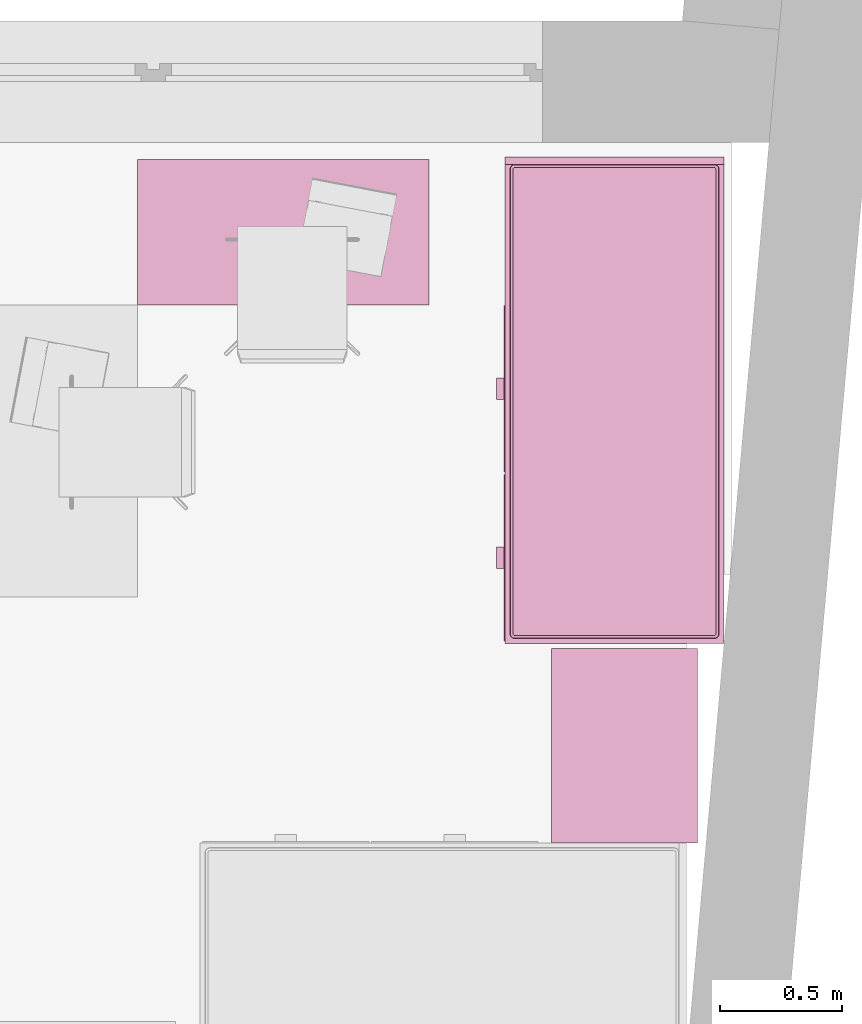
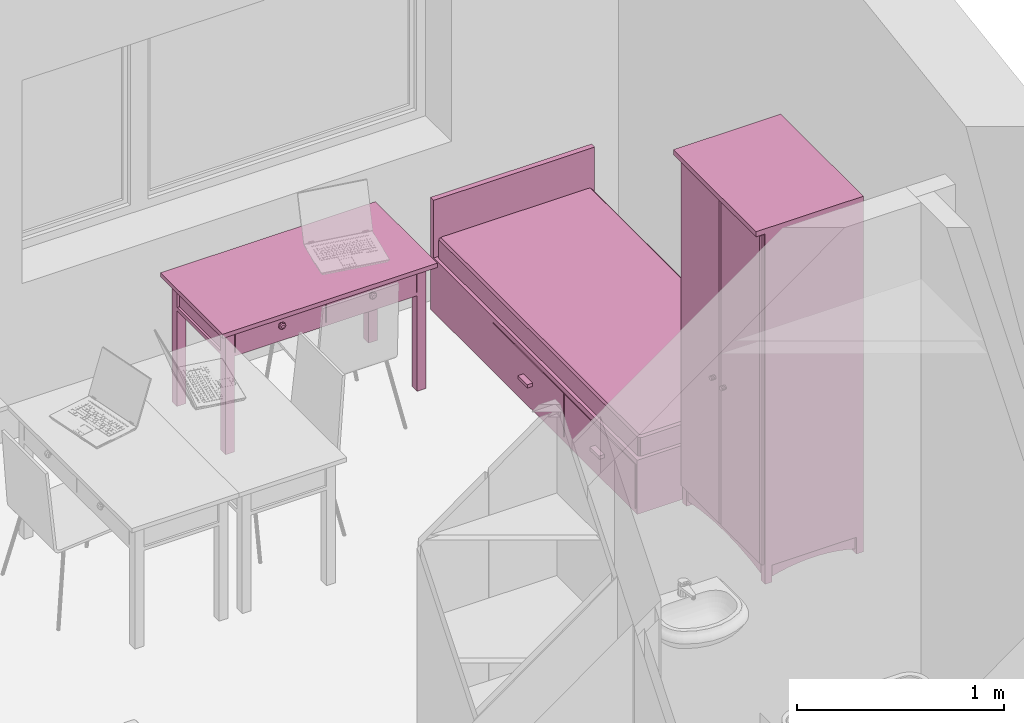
# One storey, part 148 of 165: 3 furnishings.
"""IFC2X3 building model written with IfcOpenShell, lengths in millimetres."""

import ifcopenshell
import ifcopenshell.guid

model = None  # the IFC model being written
_history = None  # IfcOwnerHistory: only IFC2X3 demands one
_inside = {}  # id of a spatial element -> (the spatial element, [elements in it])
_under = {}  # id of a project, library or spatial element -> (it, [spatial elements below it])
_declared = {}  # id of a project -> (the project, [libraries it declares])
_typed = {}  # id of a type object -> (the type object, [elements of that type])
_made_of = {}  # id of a material, layer set ... -> (it, [elements and type objects made of it])


def new_model(schema):
    """Start an empty IFC model of exactly this schema.

    Asked for "IFC4X3", IfcOpenShell would pick the latest addendum, in which some entities
    have other attributes; the version numbers below select the first issue.
    IFC2X3 requires an IfcOwnerHistory on every rooted entity: one is made here for all.
    """
    global model, _history
    if schema == "IFC4X3":
        model = ifcopenshell.file(schema_version=(4, 3, 0, 0))
    else:
        model = ifcopenshell.file(schema=schema)
    _inside.clear()
    _under.clear()
    _declared.clear()
    _typed.clear()
    _made_of.clear()
    _history = None
    if model.schema == "IFC2X3":
        org = make("IfcOrganization", Name="unknown")
        user = make(
            "IfcPersonAndOrganization",
            ThePerson=make("IfcPerson", FamilyName="unknown"),
            TheOrganization=org,
        )
        app = make(
            "IfcApplication",
            ApplicationDeveloper=org,
            Version="unknown",
            ApplicationFullName="unknown",
            ApplicationIdentifier="unknown",
        )
        _history = make(
            "IfcOwnerHistory",
            OwningUser=user,
            OwningApplication=app,
            ChangeAction="ADDED",
            CreationDate=0,
        )
    return model


def make(cls, **values):
    """One entity of the class cls with the attributes given. An attribute that is None is left unset."""
    return model.create_entity(
        cls, **{name: value for name, value in values.items() if value is not None}
    )


def entity(cls, *values):
    """Any entity or typed value of the class cls, its attributes in the order of the schema. None: left unset."""
    e = model.create_entity(cls)
    for i, value in enumerate(values):
        if value is not None:
            e[i] = value
    return e


def rooted(cls, **values):
    """An entity with a GlobalId (a new one), such as an element, a storey or a relation."""
    return make(cls, GlobalId=ifcopenshell.guid.new(), OwnerHistory=_history, **values)


def si_unit(unit_type, name, prefix=None):
    """IfcSIUnit, for example si_unit("LENGTHUNIT", "METRE", prefix="MILLI")."""
    return make("IfcSIUnit", UnitType=unit_type, Prefix=prefix, Name=name)


def converted_unit(unit_type, name, factor, base, dimensions=None, offset=None):
    """IfcConversionBasedUnit, such as the inch: factor (a typed value) times the base unit."""
    return make(
        "IfcConversionBasedUnit"
        if offset is None
        else "IfcConversionBasedUnitWithOffset",
        ConversionOffset=offset,
        Dimensions=None
        if dimensions is None
        else entity("IfcDimensionalExponents", *dimensions),
        UnitType=unit_type,
        Name=name,
        ConversionFactor=make(
            "IfcMeasureWithUnit", ValueComponent=factor, UnitComponent=base
        ),
    )


def money_unit(currency):
    """IfcMonetaryUnit."""
    return make("IfcMonetaryUnit", Currency=currency)


def assignment(units):
    """IfcUnitAssignment: the units of a project."""
    return None if units is None else make("IfcUnitAssignment", Units=units)


def point(xyz):
    """IfcCartesianPoint."""
    return None if xyz is None else make("IfcCartesianPoint", Coordinates=xyz)


def direction(xyz):
    """IfcDirection."""
    return None if xyz is None else make("IfcDirection", DirectionRatios=xyz)


def frame(location, z_axis=None, x_axis=None):
    """IfcAxis2Placement3D, a coordinate frame: its origin and axes. An axis left out is left unset."""
    return make(
        "IfcAxis2Placement3D",
        Location=point(location),
        Axis=direction(z_axis),
        RefDirection=direction(x_axis),
    )


def origin_with_axes():
    """The frame at (0, 0, 0) with the z axis (0, 0, 1) and the x axis (1, 0, 0) written out."""
    return frame((0.0, 0.0, 0.0), z_axis=(0.0, 0.0, 1.0), x_axis=(1.0, 0.0, 0.0))


def place(relative_to, where):
    """IfcLocalPlacement: puts the frame where relative to a parent placement (None: the world)."""
    return make(
        "IfcLocalPlacement", PlacementRelTo=relative_to, RelativePlacement=where
    )


def context(
    kind, dimensions, precision=None, world=None, true_north=None, identifier=None
):
    """IfcGeometricRepresentationContext, for example the 3D "Model" context."""
    return make(
        "IfcGeometricRepresentationContext",
        ContextIdentifier=identifier,
        ContextType=kind,
        CoordinateSpaceDimension=dimensions,
        Precision=precision,
        WorldCoordinateSystem=world,
        TrueNorth=true_north,
    )


def subcontext(parent, identifier, kind, view, scale=None):
    """IfcGeometricRepresentationSubContext, for example "Body" below "Model"."""
    return make(
        "IfcGeometricRepresentationSubContext",
        ContextIdentifier=identifier,
        ContextType=kind,
        ParentContext=parent,
        TargetScale=scale,
        TargetView=view,
    )


def project(units=None, contexts=None):
    """IfcProject with its units and contexts."""
    return rooted(
        "IfcProject",
        Name="project",
        RepresentationContexts=contexts,
        UnitsInContext=assignment(units),
    )


def spatial(cls, under=None, at=None, **own):
    """A site, building, storey or space (cls), placed at a placement, below another one or the project."""
    s = rooted(cls, ObjectPlacement=at, **own)
    if under is not None:
        _under.setdefault(under.id(), (under, []))[1].append(s)
    return s


def faces_of(points, faces, orient=None, outer=None):
    """IfcFace entities. A face is a list of loops; a loop is a list of indices into points, from 0.

    orient and outer hold one flag for each loop. By default every Orientation is true, the
    first loop of a face is its IfcFaceOuterBound and the others are IfcFaceBound.
    """
    made = []
    for i, loops in enumerate(faces):
        bounds = []
        for j, loop in enumerate(loops):
            is_outer = j == 0 if outer is None else outer[i][j]
            bounds.append(
                make(
                    "IfcFaceOuterBound" if is_outer else "IfcFaceBound",
                    Bound=make("IfcPolyLoop", Polygon=[points[k] for k in loop]),
                    Orientation=True if orient is None else orient[i][j],
                )
            )
        made.append(make("IfcFace", Bounds=bounds))
    return made


def faceted_brep(points, faces, orient=None, outer=None, voids=None):
    """IfcFacetedBrep: a solid bounded by flat faces; with voids (closed shells), ...WithVoids."""
    shared = [point(p) for p in points]
    hull = make("IfcClosedShell", CfsFaces=faces_of(shared, faces, orient, outer))
    if voids is None:
        return make("IfcFacetedBrep", Outer=hull)
    return make(
        "IfcFacetedBrepWithVoids",
        Outer=hull,
        Voids=[
            make(cls, CfsFaces=faces_of(shared, fs, o, b)) for cls, fs, o, b in voids
        ],
    )


def shape(context_of_items, identifier, shape_type, items):
    """IfcShapeRepresentation: the items that make up one representation, for example the "Body"."""
    return make(
        "IfcShapeRepresentation",
        ContextOfItems=context_of_items,
        RepresentationIdentifier=identifier,
        RepresentationType=shape_type,
        Items=items,
    )


def source(mapping_origin, context_of_items, identifier, shape_type, items):
    """IfcRepresentationMap: a shape defined once, which mapped items show again and again."""
    return make(
        "IfcRepresentationMap",
        MappingOrigin=mapping_origin,
        MappedRepresentation=shape(context_of_items, identifier, shape_type, items),
    )


def transform(
    local_origin,
    x_axis=None,
    y_axis=None,
    z_axis=None,
    scale=None,
    scale2=None,
    scale3=None,
    uniform=True,
):
    """IfcCartesianTransformationOperator3D, or its non-uniform kind. x_axis, y_axis, z_axis: its Axis1, 2, 3."""
    if uniform:
        return make(
            "IfcCartesianTransformationOperator3D",
            Axis1=direction(x_axis),
            Axis2=direction(y_axis),
            LocalOrigin=point(local_origin),
            Scale=scale,
            Axis3=direction(z_axis),
        )
    return make(
        "IfcCartesianTransformationOperator3DnonUniform",
        Axis1=direction(x_axis),
        Axis2=direction(y_axis),
        LocalOrigin=point(local_origin),
        Scale=scale,
        Axis3=direction(z_axis),
        Scale2=scale2,
        Scale3=scale3,
    )


def mapped(mapping_source, mapping_target):
    """IfcMappedItem: shows the shape of a source again, moved by a transform."""
    return make(
        "IfcMappedItem", MappingSource=mapping_source, MappingTarget=mapping_target
    )


def material(Name=None, Category=None):
    """IfcMaterial."""
    return make("IfcMaterial", Name=Name, Category=Category)


def material_list(materials):
    """IfcMaterialList."""
    return make("IfcMaterialList", Materials=materials)


def made_of(thing, what):
    """Note that an element or type object is made of a material, layer set ...; save() writes the relation."""
    if what is not None:
        _made_of.setdefault(what.id(), (what, []))[1].append(thing)
    return thing


def type_object(cls, material=None, **own):
    """A type object (cls), such as IfcWallType, which elements share."""
    return made_of(rooted(cls, **own), material)


def element(
    cls,
    number,
    at=None,
    inside=None,
    cuts=None,
    type_object=None,
    material=None,
    context=None,
    identifier="Body",
    shape_type=None,
    held_by="IfcProductDefinitionShape",
    body=None,
    shapes=None,
    **own,
):
    """One element of the class cls, such as IfcWall. Its Tag is "e" and its number.

    at: its placement. inside: the storey or other place that contains it. cuts: it is an
    opening in that element (IfcRelVoidsElement). A single representation is given by context,
    identifier, shape_type and body (its items); several are given by shapes. held_by: the class
    of the entity that holds the representations. save() writes the other relations.
    """
    e = rooted(cls, Tag="e%d" % number, ObjectPlacement=at, **own)
    if body is not None:
        shapes = [shape(context, identifier, shape_type, body)]
    if shapes is not None:
        e.Representation = make(held_by, Representations=shapes)
    if inside is not None:
        _inside.setdefault(inside.id(), (inside, []))[1].append(e)
    if cuts is not None:
        rooted(
            "IfcRelVoidsElement", RelatingBuildingElement=cuts, RelatedOpeningElement=e
        )
    if type_object is not None:
        _typed.setdefault(type_object.id(), (type_object, []))[1].append(e)
    return made_of(e, material)


def aggregate(whole, parts):
    """IfcRelAggregates: a whole, such as a stair, and the parts it consists of."""
    return rooted("IfcRelAggregates", RelatingObject=whole, RelatedObjects=parts)


def save(model, path):
    """Write the relations noted so far, then the file.

    IfcRelAggregates (storeys below a building ...), IfcRelContainedInSpatialStructure (elements
    in a storey), IfcRelDefinesByType, IfcRelAssociatesMaterial and IfcRelDeclares: one each for
    every whole, place, type object, material and project.
    """
    for whole, parts in _under.values():
        aggregate(whole, parts)
    for where, things in _inside.values():
        rooted(
            "IfcRelContainedInSpatialStructure",
            RelatedElements=things,
            RelatingStructure=where,
        )
    for kind, things in _typed.values():
        rooted("IfcRelDefinesByType", RelatedObjects=things, RelatingType=kind)
    for what, things in _made_of.values():
        rooted("IfcRelAssociatesMaterial", RelatedObjects=things, RelatingMaterial=what)
    for by, libraries in _declared.values():
        rooted("IfcRelDeclares", RelatingContext=by, RelatedDefinitions=libraries)
    model.write(path)


model = new_model("IFC2X3")

# Units and contexts
model_context = context("Model", 3, precision=1e-05, world=origin_with_axes(), true_north=direction((0.0, 1.0)))
body_context = subcontext(model_context, "Body", "Model", "MODEL_VIEW")
ifc_project = project(units=[si_unit("LENGTHUNIT", "METRE", prefix="MILLI"), si_unit("AREAUNIT", "SQUARE_METRE"), si_unit("VOLUMEUNIT", "CUBIC_METRE"), converted_unit("PLANEANGLEUNIT", "DEGREE", entity("IfcPlaneAngleMeasure", 0.0174532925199), si_unit("PLANEANGLEUNIT", "RADIAN"), dimensions=[0, 0, 0, 0, 0, 0, 0]), si_unit("SOLIDANGLEUNIT", "STERADIAN"), money_unit("USD"), converted_unit("TIMEUNIT", "Year", entity("IfcTimeMeasure", 31556926.0), si_unit("TIMEUNIT", "SECOND"), dimensions=[0, 0, 0, 0, 0, 0, 0]), si_unit("MASSUNIT", "GRAM"), si_unit("THERMODYNAMICTEMPERATUREUNIT", "DEGREE_CELSIUS"), si_unit("LUMINOUSINTENSITYUNIT", "LUMEN")], contexts=[model_context])

# Site, building, storey
site_placement = place(None, origin_with_axes())
site = spatial("IfcSite", under=ifc_project, at=site_placement, Name="Site", CompositionType="ELEMENT")
building_placement = place(site_placement, origin_with_axes())
building = spatial("IfcBuilding", under=site, at=building_placement, Name="Building", CompositionType="ELEMENT")
storey_placement = place(building_placement, frame((0.0, 0.0, 6300.0), z_axis=(0.0, 0.0, 1.0), x_axis=(1.0, 0.0, 0.0)))
storey = spatial("IfcBuildingStorey", under=building, at=storey_placement, Name="4KORRUS", CompositionType="ELEMENT", Elevation=6300.0)

# Furnishings
ifc_material = material(Name="Background")
ifc_material_list = material_list([ifc_material])
furnishing_element_type_1 = type_object("IfcFurnishingElementType", Name="Cupboard 19")
shared_shape_1 = source(origin_with_axes(), body_context, "Body", "Brep", [
    faceted_brep([(-780.0, 600.0, 120.0), (-780.0, 580.0, 120.0), (-780.0, 580.0, 2050.0), (-780.0, 600.0, 2050.0), (-20.0, 600.0, 120.0), (-20.0, 580.0, 120.0), (-20.0, 580.0, 2050.0), (-20.0, 600.0, 2050.0)], [[[0, 1, 2, 3]], [[0, 4, 5, 1]], [[1, 5, 6, 2]], [[3, 2, 6, 7]], [[4, 0, 3, 7]], [[5, 4, 7, 6]]]),
    faceted_brep([(0.0, 50.0, 100.0), (-20.0, 50.0, 100.0), (-20.0, 600.0, 100.0), (0.0, 600.0, 100.0), (0.0, 50.0, 2070.0), (-20.0, 50.0, 2070.0), (-20.0, 600.0, 2070.0), (0.0, 600.0, 2070.0)], [[[0, 1, 2, 3]], [[1, 0, 4, 5]], [[2, 1, 5, 6]], [[3, 2, 6, 7]], [[0, 3, 7, 4]], [[5, 4, 7, 6]]]),
    faceted_brep([(-780.0, 50.0, 100.0), (-800.0, 50.0, 100.0), (-800.0, 600.0, 100.0), (-780.0, 600.0, 100.0), (-780.0, 50.0, 2070.0), (-800.0, 50.0, 2070.0), (-800.0, 600.0, 2070.0), (-780.0, 600.0, 2070.0)], [[[0, 1, 2, 3]], [[1, 0, 4, 5]], [[2, 1, 5, 6]], [[3, 2, 6, 7]], [[0, 3, 7, 4]], [[5, 4, 7, 6]]]),
    faceted_brep([(-20.0, 50.0, 100.0), (-780.0, 50.0, 100.0), (-780.0, 600.0, 100.0), (-20.0, 600.0, 100.0), (-20.0, 50.0, 120.0), (-780.0, 50.0, 120.0), (-780.0, 600.0, 120.0), (-20.0, 600.0, 120.0)], [[[0, 1, 2, 3]], [[1, 0, 4, 5]], [[2, 1, 5, 6]], [[3, 2, 6, 7]], [[0, 3, 7, 4]], [[5, 4, 7, 6]]]),
    faceted_brep([(-20.0, 50.0, 2050.0), (-780.0, 50.0, 2050.0), (-780.0, 600.0, 2050.0), (-20.0, 600.0, 2050.0), (-20.0, 50.0, 2070.0), (-780.0, 50.0, 2070.0), (-780.0, 600.0, 2070.0), (-20.0, 600.0, 2070.0)], [[[0, 1, 2, 3]], [[1, 0, 4, 5]], [[2, 1, 5, 6]], [[3, 2, 6, 7]], [[0, 3, 7, 4]], [[5, 4, 7, 6]]]),
    faceted_brep([(0.0, 600.0, 2070.0), (0.0, 600.0, 2100.0), (0.0, 0.0, 2100.0), (0.0, 0.0, 2070.0), (-800.0, 600.0, 2070.0), (-800.0, 600.0, 2100.0), (-800.0, 0.0, 2100.0), (-800.0, 0.0, 2070.0)], [[[0, 1, 2, 3]], [[4, 5, 1, 0]], [[1, 5, 6, 2]], [[3, 2, 6, 7]], [[0, 3, 7, 4]], [[7, 6, 5, 4]]]),
    faceted_brep([(-760.0, 590.0, 25.0), (-640.962, 590.0, 45.8), (-640.962, 570.0, 45.8), (-760.0, 570.0, 25.0), (-760.0, 590.0, 100.0), (-40.0, 590.0, 100.0), (-40.0, 590.0, 25.0), (-159.038, 590.0, 45.8), (-279.23, 590.0, 58.32), (-400.0, 590.0, 62.5), (-520.77, 590.0, 58.32), (-520.77, 570.0, 58.32), (-400.0, 570.0, 62.5), (-279.23, 570.0, 58.32), (-159.038, 570.0, 45.8), (-40.0, 570.0, 25.0), (-40.0, 570.0, 100.0), (-760.0, 570.0, 100.0)], [[[0, 1, 2, 3]], [[0, 4, 5, 6, 7, 8, 9, 10, 1]], [[1, 10, 11, 2]], [[3, 2, 11, 12, 13, 14, 15, 16, 17]], [[4, 0, 3, 17]], [[5, 4, 17, 16]], [[6, 5, 16, 15]], [[7, 6, 15, 14]], [[8, 7, 14, 13]], [[9, 8, 13, 12]], [[10, 9, 12, 11]]]),
    faceted_brep([(-760.0, 80.0, 25.0), (-640.962, 80.0, 45.8), (-640.962, 60.0, 45.8), (-760.0, 60.0, 25.0), (-760.0, 80.0, 100.0), (-40.0, 80.0, 100.0), (-40.0, 80.0, 25.0), (-159.038, 80.0, 45.8), (-279.23, 80.0, 58.32), (-400.0, 80.0, 62.5), (-520.77, 80.0, 58.32), (-520.77, 60.0, 58.32), (-400.0, 60.0, 62.5), (-279.23, 60.0, 58.32), (-159.038, 60.0, 45.8), (-40.0, 60.0, 25.0), (-40.0, 60.0, 100.0), (-760.0, 60.0, 100.0)], [[[0, 1, 2, 3]], [[0, 4, 5, 6, 7, 8, 9, 10, 1]], [[1, 10, 11, 2]], [[3, 2, 11, 12, 13, 14, 15, 16, 17]], [[4, 0, 3, 17]], [[5, 4, 17, 16]], [[6, 5, 16, 15]], [[7, 6, 15, 14]], [[8, 7, 14, 13]], [[9, 8, 13, 12]], [[10, 9, 12, 11]]]),
    faceted_brep([(-790.0, 90.0, 25.0), (-790.0, 141.266, 38.072), (-770.0, 141.266, 38.072), (-770.0, 90.0, 25.0), (-790.0, 90.0, 100.0), (-790.0, 560.0, 100.0), (-790.0, 560.0, 25.0), (-790.0, 508.734, 38.072), (-790.0, 456.752, 47.92), (-790.0, 404.257, 54.508), (-790.0, 351.453, 57.808), (-790.0, 298.547, 57.808), (-790.0, 245.743, 54.508), (-790.0, 193.248, 47.92), (-770.0, 193.248, 47.92), (-770.0, 245.743, 54.508), (-770.0, 298.547, 57.808), (-770.0, 351.453, 57.808), (-770.0, 404.257, 54.508), (-770.0, 456.752, 47.92), (-770.0, 508.734, 38.072), (-770.0, 560.0, 25.0), (-770.0, 560.0, 100.0), (-770.0, 90.0, 100.0)], [[[0, 1, 2, 3]], [[0, 4, 5, 6, 7, 8, 9, 10, 11, 12, 13, 1]], [[1, 13, 14, 2]], [[3, 2, 14, 15, 16, 17, 18, 19, 20, 21, 22, 23]], [[4, 0, 3, 23]], [[5, 4, 23, 22]], [[6, 5, 22, 21]], [[7, 6, 21, 20]], [[8, 7, 20, 19]], [[9, 8, 19, 18]], [[10, 9, 18, 17]], [[11, 10, 17, 16]], [[12, 11, 16, 15]], [[13, 12, 15, 14]]]),
    faceted_brep([(-30.0, 90.0, 25.0), (-30.0, 141.266, 38.072), (-10.0, 141.266, 38.072), (-10.0, 90.0, 25.0), (-30.0, 90.0, 100.0), (-30.0, 560.0, 100.0), (-30.0, 560.0, 25.0), (-30.0, 508.734, 38.072), (-30.0, 456.752, 47.92), (-30.0, 404.257, 54.508), (-30.0, 351.453, 57.808), (-30.0, 298.547, 57.808), (-30.0, 245.743, 54.508), (-30.0, 193.248, 47.92), (-10.0, 193.248, 47.92), (-10.0, 245.743, 54.508), (-10.0, 298.547, 57.808), (-10.0, 351.453, 57.808), (-10.0, 404.257, 54.508), (-10.0, 456.752, 47.92), (-10.0, 508.734, 38.072), (-10.0, 560.0, 25.0), (-10.0, 560.0, 100.0), (-10.0, 90.0, 100.0)], [[[0, 1, 2, 3]], [[0, 4, 5, 6, 7, 8, 9, 10, 11, 12, 13, 1]], [[1, 13, 14, 2]], [[3, 2, 14, 15, 16, 17, 18, 19, 20, 21, 22, 23]], [[4, 0, 3, 23]], [[5, 4, 23, 22]], [[6, 5, 22, 21]], [[7, 6, 21, 20]], [[8, 7, 20, 19]], [[9, 8, 19, 18]], [[10, 9, 18, 17]], [[11, 10, 17, 16]], [[12, 11, 16, 15]], [[13, 12, 15, 14]]]),
    faceted_brep([(-760.0, 560.0, 0.0), (-760.0, 600.0, 0.0), (-760.0, 600.0, 100.0), (-760.0, 560.0, 100.0), (-800.0, 560.0, 0.0), (-800.0, 600.0, 0.0), (-800.0, 600.0, 100.0), (-800.0, 560.0, 100.0)], [[[0, 1, 2, 3]], [[0, 4, 5, 1]], [[1, 5, 6, 2]], [[3, 2, 6, 7]], [[4, 0, 3, 7]], [[5, 4, 7, 6]]]),
    faceted_brep([(0.0, 560.0, 0.0), (0.0, 600.0, 0.0), (0.0, 600.0, 100.0), (0.0, 560.0, 100.0), (-40.0, 560.0, 0.0), (-40.0, 600.0, 0.0), (-40.0, 600.0, 100.0), (-40.0, 560.0, 100.0)], [[[0, 1, 2, 3]], [[0, 4, 5, 1]], [[1, 5, 6, 2]], [[3, 2, 6, 7]], [[4, 0, 3, 7]], [[5, 4, 7, 6]]]),
    faceted_brep([(-760.0, 50.0, 0.0), (-760.0, 90.0, 0.0), (-760.0, 90.0, 100.0), (-760.0, 50.0, 100.0), (-800.0, 50.0, 0.0), (-800.0, 90.0, 0.0), (-800.0, 90.0, 100.0), (-800.0, 50.0, 100.0)], [[[0, 1, 2, 3]], [[0, 4, 5, 1]], [[1, 5, 6, 2]], [[3, 2, 6, 7]], [[4, 0, 3, 7]], [[5, 4, 7, 6]]]),
    faceted_brep([(0.0, 50.0, 0.0), (0.0, 90.0, 0.0), (0.0, 90.0, 100.0), (0.0, 50.0, 100.0), (-40.0, 50.0, 0.0), (-40.0, 90.0, 0.0), (-40.0, 90.0, 100.0), (-40.0, 50.0, 100.0)], [[[0, 1, 2, 3]], [[0, 4, 5, 1]], [[1, 5, 6, 2]], [[3, 2, 6, 7]], [[4, 0, 3, 7]], [[5, 4, 7, 6]]]),
    faceted_brep([(-780.0, 580.0, 587.5), (-780.0, 50.0, 587.5), (-780.0, 50.0, 607.5), (-780.0, 580.0, 607.5), (-20.0, 580.0, 587.5), (-20.0, 50.0, 587.5), (-20.0, 50.0, 607.5), (-20.0, 580.0, 607.5)], [[[0, 1, 2, 3]], [[0, 4, 5, 1]], [[1, 5, 6, 2]], [[3, 2, 6, 7]], [[4, 0, 3, 7]], [[5, 4, 7, 6]]]),
    faceted_brep([(-780.0, 580.0, 1075.0), (-780.0, 50.0, 1075.0), (-780.0, 50.0, 1095.0), (-780.0, 580.0, 1095.0), (-20.0, 580.0, 1075.0), (-20.0, 50.0, 1075.0), (-20.0, 50.0, 1095.0), (-20.0, 580.0, 1095.0)], [[[0, 1, 2, 3]], [[0, 4, 5, 1]], [[1, 5, 6, 2]], [[3, 2, 6, 7]], [[4, 0, 3, 7]], [[5, 4, 7, 6]]]),
    faceted_brep([(-780.0, 580.0, 1562.5), (-780.0, 50.0, 1562.5), (-780.0, 50.0, 1582.5), (-780.0, 580.0, 1582.5), (-20.0, 580.0, 1562.5), (-20.0, 50.0, 1562.5), (-20.0, 50.0, 1582.5), (-20.0, 580.0, 1582.5)], [[[0, 1, 2, 3]], [[0, 4, 5, 1]], [[1, 5, 6, 2]], [[3, 2, 6, 7]], [[4, 0, 3, 7]], [[5, 4, 7, 6]]]),
    faceted_brep([(-789.5, 50.0, 110.5), (-789.5, 50.0, 2059.5), (-400.5, 50.0, 2059.5), (-400.5, 50.0, 110.5), (-789.5, 40.0, 110.5), (-789.5, 40.0, 2059.5), (-400.5, 40.0, 2059.5), (-400.5, 40.0, 110.5), (-779.5, 30.0, 120.5), (-779.5, 30.0, 2049.5), (-410.5, 30.0, 2049.5), (-410.5, 30.0, 120.5)], [[[0, 1, 2, 3]], [[1, 0, 4, 5]], [[2, 1, 5, 6]], [[3, 2, 6, 7]], [[0, 3, 7, 4]], [[5, 4, 8, 9]], [[6, 5, 9, 10]], [[7, 6, 10, 11]], [[4, 7, 11, 8]], [[10, 9, 8, 11]]]),
    faceted_brep([(-399.5, 50.0, 110.5), (-399.5, 50.0, 2059.5), (-10.5, 50.0, 2059.5), (-10.5, 50.0, 110.5), (-399.5, 40.0, 110.5), (-399.5, 40.0, 2059.5), (-10.5, 40.0, 2059.5), (-10.5, 40.0, 110.5), (-389.5, 30.0, 120.5), (-389.5, 30.0, 2049.5), (-20.5, 30.0, 2049.5), (-20.5, 30.0, 120.5)], [[[0, 1, 2, 3]], [[1, 0, 4, 5]], [[2, 1, 5, 6]], [[3, 2, 6, 7]], [[0, 3, 7, 4]], [[5, 4, 8, 9]], [[6, 5, 9, 10]], [[7, 6, 10, 11]], [[4, 7, 11, 8]], [[10, 9, 8, 11]]]),
    faceted_brep([(-339.608, 30.0, 954.0), (-344.0, 30.0, 949.608), (-350.0, 30.0, 948.0), (-356.0, 30.0, 949.608), (-360.392, 30.0, 954.0), (-362.0, 30.0, 960.0), (-360.392, 30.0, 966.0), (-356.0, 30.0, 970.392), (-350.0, 30.0, 972.0), (-344.0, 30.0, 970.392), (-339.608, 30.0, 966.0), (-338.0, 30.0, 960.0), (-339.608, 5.0, 954.0), (-344.0, 5.0, 949.608), (-350.0, 5.0, 948.0), (-356.0, 5.0, 949.608), (-360.392, 5.0, 954.0), (-362.0, 5.0, 960.0), (-360.392, 5.0, 966.0), (-356.0, 5.0, 970.392), (-350.0, 5.0, 972.0), (-344.0, 5.0, 970.392), (-339.608, 5.0, 966.0), (-338.0, 5.0, 960.0)], [[[0, 1, 2, 3, 4, 5, 6, 7, 8, 9, 10, 11]], [[1, 0, 12, 13]], [[2, 1, 13, 14]], [[3, 2, 14, 15]], [[4, 3, 15, 16]], [[5, 4, 16, 17]], [[6, 5, 17, 18]], [[7, 6, 18, 19]], [[8, 7, 19, 20]], [[9, 8, 20, 21]], [[10, 9, 21, 22]], [[11, 10, 22, 23]], [[0, 11, 23, 12]], [[12, 23, 22, 21, 20, 19, 18, 17, 16, 15, 14, 13]]]),
    faceted_brep([(-460.392, 30.0, 954.0), (-462.0, 30.0, 960.0), (-460.392, 30.0, 966.0), (-456.0, 30.0, 970.392), (-450.0, 30.0, 972.0), (-444.0, 30.0, 970.392), (-439.608, 30.0, 966.0), (-438.0, 30.0, 960.0), (-439.608, 30.0, 954.0), (-444.0, 30.0, 949.608), (-450.0, 30.0, 948.0), (-456.0, 30.0, 949.608), (-460.392, 5.0, 954.0), (-462.0, 5.0, 960.0), (-460.392, 5.0, 966.0), (-456.0, 5.0, 970.392), (-450.0, 5.0, 972.0), (-444.0, 5.0, 970.392), (-439.608, 5.0, 966.0), (-438.0, 5.0, 960.0), (-439.608, 5.0, 954.0), (-444.0, 5.0, 949.608), (-450.0, 5.0, 948.0), (-456.0, 5.0, 949.608)], [[[0, 1, 2, 3, 4, 5, 6, 7, 8, 9, 10, 11]], [[0, 12, 13, 1]], [[1, 13, 14, 2]], [[2, 14, 15, 3]], [[3, 15, 16, 4]], [[4, 16, 17, 5]], [[5, 17, 18, 6]], [[6, 18, 19, 7]], [[7, 19, 20, 8]], [[8, 20, 21, 9]], [[9, 21, 22, 10]], [[10, 22, 23, 11]], [[11, 23, 12, 0]], [[12, 23, 22, 21, 20, 19, 18, 17, 16, 15, 14, 13]]]),
])
furnishing_1_placement = place(storey_placement, frame((17450.3495899, -8020.3690093, 0.0), z_axis=(0.0, 0.0, 1.0), x_axis=(0.0, -1.0, 0.0)))
element("IfcFurnishingElement", 1, at=furnishing_1_placement, inside=storey, type_object=furnishing_element_type_1, material=ifc_material_list, Name="FU - 014", context=body_context, shape_type="MappedRepresentation", body=[
    mapped(shared_shape_1, transform((0.0, 0.0, 0.0))),
])
furnishing_element_type_2 = type_object("IfcFurnishingElementType", Name="Bed 19")
shared_shape_2 = source(origin_with_axes(), body_context, "Body", "Brep", [
    faceted_brep([(-900.0, 1970.0, 0.0), (-900.0, 2000.0, 0.0), (0.0, 2000.0, 0.0), (0.0, 1970.0, 0.0), (-900.0, 1970.0, 660.0), (-900.0, 2000.0, 660.0), (0.0, 2000.0, 660.0), (0.0, 1970.0, 660.0)], [[[0, 1, 2, 3]], [[0, 4, 5, 1]], [[1, 5, 6, 2]], [[2, 6, 7, 3]], [[3, 7, 4, 0]], [[7, 6, 5, 4]]]),
    faceted_brep([(-900.0, 0.0, 0.0), (-900.0, 1970.0, 0.0), (0.0, 1970.0, 0.0), (0.0, 0.0, 0.0), (-900.0, 0.0, 320.0), (-900.0, 1970.0, 320.0), (0.0, 1970.0, 320.0), (0.0, 0.0, 320.0)], [[[0, 1, 2, 3]], [[0, 4, 5, 1]], [[1, 5, 6, 2]], [[2, 6, 7, 3]], [[3, 7, 4, 0]], [[7, 6, 5, 4]]]),
    faceted_brep([(-905.0, 10.0, 30.0), (-905.0, 695.0, 30.0), (-900.0, 695.0, 30.0), (-900.0, 10.0, 30.0), (-905.0, 10.0, 290.0), (-905.0, 695.0, 290.0), (-900.0, 695.0, 290.0), (-900.0, 10.0, 290.0)], [[[0, 1, 2, 3]], [[0, 4, 5, 1]], [[1, 5, 6, 2]], [[2, 6, 7, 3]], [[3, 7, 4, 0]], [[7, 6, 5, 4]]]),
    faceted_brep([(-935.0, 307.5, 150.0), (-935.0, 397.5, 150.0), (-905.0, 397.5, 150.0), (-905.0, 307.5, 150.0), (-935.0, 307.5, 170.0), (-935.0, 397.5, 170.0), (-905.0, 397.5, 170.0), (-905.0, 307.5, 170.0)], [[[0, 1, 2, 3]], [[0, 4, 5, 1]], [[1, 5, 6, 2]], [[2, 6, 7, 3]], [[3, 7, 4, 0]], [[7, 6, 5, 4]]]),
    faceted_brep([(-905.0, 705.0, 30.0), (-905.0, 1390.0, 30.0), (-900.0, 1390.0, 30.0), (-900.0, 705.0, 30.0), (-905.0, 705.0, 290.0), (-905.0, 1390.0, 290.0), (-900.0, 1390.0, 290.0), (-900.0, 705.0, 290.0)], [[[0, 1, 2, 3]], [[0, 4, 5, 1]], [[1, 5, 6, 2]], [[2, 6, 7, 3]], [[3, 7, 4, 0]], [[7, 6, 5, 4]]]),
    faceted_brep([(-935.0, 1002.5, 150.0), (-935.0, 1092.5, 150.0), (-905.0, 1092.5, 150.0), (-905.0, 1002.5, 150.0), (-935.0, 1002.5, 170.0), (-935.0, 1092.5, 170.0), (-905.0, 1092.5, 170.0), (-905.0, 1002.5, 170.0)], [[[0, 1, 2, 3]], [[0, 4, 5, 1]], [[1, 5, 6, 2]], [[2, 6, 7, 3]], [[3, 7, 4, 0]], [[7, 6, 5, 4]]]),
    faceted_brep([(-20.0, 40.0, 350.0), (-21.522, 32.346, 350.0), (-25.858, 25.858, 350.0), (-32.346, 21.522, 350.0), (-40.0, 20.0, 350.0), (-860.0, 20.0, 350.0), (-867.654, 21.522, 350.0), (-874.142, 25.858, 350.0), (-878.478, 32.346, 350.0), (-880.0, 40.0, 350.0), (-880.0, 1950.0, 350.0), (-878.478, 1957.654, 350.0), (-874.142, 1964.142, 350.0), (-867.654, 1968.478, 350.0), (-860.0, 1970.0, 350.0), (-40.0, 1970.0, 350.0), (-32.346, 1968.478, 350.0), (-25.858, 1964.142, 350.0), (-21.522, 1957.654, 350.0), (-20.0, 1950.0, 350.0), (-20.0, 40.0, 420.0), (-21.522, 32.346, 420.0), (-25.858, 25.858, 420.0), (-32.346, 21.522, 420.0), (-40.0, 20.0, 420.0), (-860.0, 20.0, 420.0), (-867.654, 21.522, 420.0), (-874.142, 25.858, 420.0), (-878.478, 32.346, 420.0), (-880.0, 40.0, 420.0), (-880.0, 1950.0, 420.0), (-878.478, 1957.654, 420.0), (-874.142, 1964.142, 420.0), (-867.654, 1968.478, 420.0), (-860.0, 1970.0, 420.0), (-40.0, 1970.0, 420.0), (-32.346, 1968.478, 420.0), (-25.858, 1964.142, 420.0), (-21.522, 1957.654, 420.0), (-20.0, 1950.0, 420.0), (-21.522, 40.15, 427.654), (-22.956, 32.94, 427.654), (-26.955, 26.955, 427.654), (-32.94, 22.956, 427.654), (-40.15, 21.522, 427.654), (-859.85, 21.522, 427.654), (-867.06, 22.956, 427.654), (-873.045, 26.955, 427.654), (-877.044, 32.94, 427.654), (-878.478, 40.15, 427.654), (-878.478, 1949.85, 427.654), (-877.044, 1957.06, 427.654), (-873.045, 1963.045, 427.654), (-867.06, 1967.044, 427.654), (-859.85, 1968.478, 427.654), (-40.15, 1968.478, 427.654), (-32.94, 1967.044, 427.654), (-26.955, 1963.045, 427.654), (-22.956, 1957.06, 427.654), (-21.522, 1949.85, 427.654), (-32.346, 41.216, 438.478), (-33.152, 37.164, 438.478), (-34.759, 34.759, 438.478), (-37.164, 33.152, 438.478), (-41.216, 32.346, 438.478), (-858.784, 32.346, 438.478), (-862.836, 33.152, 438.478), (-865.241, 34.759, 438.478), (-866.848, 37.164, 438.478), (-867.654, 41.216, 438.478), (-867.654, 1948.784, 438.478), (-866.848, 1952.836, 438.478), (-865.241, 1955.241, 438.478), (-862.836, 1956.848, 438.478), (-858.784, 1957.654, 438.478), (-41.216, 1957.654, 438.478), (-37.164, 1956.848, 438.478), (-34.759, 1955.241, 438.478), (-33.152, 1952.836, 438.478), (-32.346, 1948.784, 438.478), (-40.0, 41.97, 440.0), (-40.327, 40.327, 440.0), (-40.0, 40.0, 439.924), (-41.97, 40.0, 440.0), (-858.03, 40.0, 440.0), (-859.673, 40.327, 440.0), (-860.0, 40.0, 439.924), (-860.0, 41.97, 440.0), (-860.0, 1948.03, 440.0), (-859.673, 1949.673, 440.0), (-860.0, 1950.0, 439.924), (-858.03, 1950.0, 440.0), (-41.97, 1950.0, 440.0), (-40.327, 1949.673, 440.0), (-40.0, 1950.0, 439.924), (-40.0, 1948.03, 440.0)], [[[0, 1, 2, 3, 4, 5, 6, 7, 8, 9, 10, 11, 12, 13, 14, 15, 16, 17, 18, 19]], [[0, 20, 21, 1]], [[1, 21, 22, 2]], [[2, 22, 23, 3]], [[3, 23, 24, 4]], [[4, 24, 25, 5]], [[5, 25, 26, 6]], [[6, 26, 27, 7]], [[7, 27, 28, 8]], [[8, 28, 29, 9]], [[9, 29, 30, 10]], [[10, 30, 31, 11]], [[11, 31, 32, 12]], [[12, 32, 33, 13]], [[13, 33, 34, 14]], [[14, 34, 35, 15]], [[15, 35, 36, 16]], [[16, 36, 37, 17]], [[17, 37, 38, 18]], [[18, 38, 39, 19]], [[19, 39, 20, 0]], [[20, 40, 41, 21]], [[21, 41, 42, 22]], [[22, 42, 43, 23]], [[23, 43, 44, 24]], [[24, 44, 45, 25]], [[25, 45, 46, 26]], [[26, 46, 47, 27]], [[27, 47, 48, 28]], [[28, 48, 49, 29]], [[29, 49, 50, 30]], [[30, 50, 51, 31]], [[31, 51, 52, 32]], [[32, 52, 53, 33]], [[33, 53, 54, 34]], [[34, 54, 55, 35]], [[35, 55, 56, 36]], [[36, 56, 57, 37]], [[37, 57, 58, 38]], [[38, 58, 59, 39]], [[39, 59, 40, 20]], [[40, 60, 61, 41]], [[41, 61, 62, 42]], [[42, 62, 63, 43]], [[43, 63, 64, 44]], [[44, 64, 65, 45]], [[45, 65, 66, 46]], [[46, 66, 67, 47]], [[47, 67, 68, 48]], [[48, 68, 69, 49]], [[49, 69, 70, 50]], [[50, 70, 71, 51]], [[51, 71, 72, 52]], [[52, 72, 73, 53]], [[53, 73, 74, 54]], [[54, 74, 75, 55]], [[55, 75, 76, 56]], [[56, 76, 77, 57]], [[57, 77, 78, 58]], [[58, 78, 79, 59]], [[59, 79, 60, 40]], [[60, 80, 81, 82, 61]], [[61, 82, 62]], [[62, 82, 63]], [[63, 82, 81, 83, 64]], [[64, 83, 84, 65]], [[65, 84, 85, 86, 66]], [[66, 86, 67]], [[67, 86, 68]], [[68, 86, 85, 87, 69]], [[69, 87, 88, 70]], [[70, 88, 89, 90, 71]], [[71, 90, 72]], [[72, 90, 73]], [[73, 90, 89, 91, 74]], [[74, 91, 92, 75]], [[75, 92, 93, 94, 76]], [[76, 94, 77]], [[77, 94, 78]], [[78, 94, 93, 95, 79]], [[79, 95, 80, 60]], [[95, 93, 92, 91, 89, 88, 87, 85, 84, 83, 81, 80]]]),
    faceted_brep([(-20.0, 40.0, 350.0), (-20.0, 1950.0, 350.0), (-21.522, 1957.654, 350.0), (-25.858, 1964.142, 350.0), (-32.346, 1968.478, 350.0), (-40.0, 1970.0, 350.0), (-860.0, 1970.0, 350.0), (-867.654, 1968.478, 350.0), (-874.142, 1964.142, 350.0), (-878.478, 1957.654, 350.0), (-880.0, 1950.0, 350.0), (-880.0, 40.0, 350.0), (-878.478, 32.346, 350.0), (-874.142, 25.858, 350.0), (-867.654, 21.522, 350.0), (-860.0, 20.0, 350.0), (-40.0, 20.0, 350.0), (-32.346, 21.522, 350.0), (-25.858, 25.858, 350.0), (-21.522, 32.346, 350.0), (-20.0, 40.0, 320.0), (-20.0, 1950.0, 320.0), (-21.522, 1957.654, 320.0), (-25.858, 1964.142, 320.0), (-32.346, 1968.478, 320.0), (-40.0, 1970.0, 320.0), (-860.0, 1970.0, 320.0), (-867.654, 1968.478, 320.0), (-874.142, 1964.142, 320.0), (-878.478, 1957.654, 320.0), (-880.0, 1950.0, 320.0), (-880.0, 40.0, 320.0), (-878.478, 32.346, 320.0), (-874.142, 25.858, 320.0), (-867.654, 21.522, 320.0), (-860.0, 20.0, 320.0), (-40.0, 20.0, 320.0), (-32.346, 21.522, 320.0), (-25.858, 25.858, 320.0), (-21.522, 32.346, 320.0)], [[[0, 1, 2, 3, 4, 5, 6, 7, 8, 9, 10, 11, 12, 13, 14, 15, 16, 17, 18, 19]], [[1, 0, 20, 21]], [[2, 1, 21, 22]], [[3, 2, 22, 23]], [[4, 3, 23, 24]], [[5, 4, 24, 25]], [[6, 5, 25, 26]], [[7, 6, 26, 27]], [[8, 7, 27, 28]], [[9, 8, 28, 29]], [[10, 9, 29, 30]], [[11, 10, 30, 31]], [[12, 11, 31, 32]], [[13, 12, 32, 33]], [[14, 13, 33, 34]], [[15, 14, 34, 35]], [[16, 15, 35, 36]], [[17, 16, 36, 37]], [[18, 17, 37, 38]], [[19, 18, 38, 39]], [[0, 19, 39, 20]], [[20, 39, 38, 37, 36, 35, 34, 33, 32, 31, 30, 29, 28, 27, 26, 25, 24, 23, 22, 21]]]),
])
furnishing_2_placement = place(storey_placement, frame((18160.00296, -7200.27456091, 0.0), z_axis=(0.0, 0.0, 1.0), x_axis=(1.0, 0.0, 0.0)))
element("IfcFurnishingElement", 2, at=furnishing_2_placement, inside=storey, type_object=furnishing_element_type_2, material=ifc_material_list, Name="FU - 013", context=body_context, shape_type="MappedRepresentation", body=[
    mapped(shared_shape_2, transform((0.0, 0.0, 0.0))),
])
furnishing_element_type_3 = type_object("IfcFurnishingElementType", Name="Rectangular Table 01 19")
shared_shape_3 = source(origin_with_axes(), body_context, "Body", "Brep", [
    faceted_brep([(-90.0, 40.0, 0.0), (-90.0, 90.0, 0.0), (-40.0, 90.0, 0.0), (-40.0, 40.0, 0.0), (-90.0, 40.0, 725.0), (-90.0, 90.0, 725.0), (-40.0, 90.0, 725.0), (-40.0, 40.0, 725.0)], [[[0, 1, 2, 3]], [[0, 4, 5, 1]], [[1, 5, 6, 2]], [[2, 6, 7, 3]], [[3, 7, 4, 0]], [[7, 6, 5, 4]]]),
    faceted_brep([(-1160.0, 40.0, 0.0), (-1160.0, 90.0, 0.0), (-1110.0, 90.0, 0.0), (-1110.0, 40.0, 0.0), (-1160.0, 40.0, 725.0), (-1160.0, 90.0, 725.0), (-1110.0, 90.0, 725.0), (-1110.0, 40.0, 725.0)], [[[0, 1, 2, 3]], [[0, 4, 5, 1]], [[1, 5, 6, 2]], [[2, 6, 7, 3]], [[3, 7, 4, 0]], [[7, 6, 5, 4]]]),
    faceted_brep([(-90.0, 510.0, 0.0), (-90.0, 560.0, 0.0), (-40.0, 560.0, 0.0), (-40.0, 510.0, 0.0), (-90.0, 510.0, 725.0), (-90.0, 560.0, 725.0), (-40.0, 560.0, 725.0), (-40.0, 510.0, 725.0)], [[[0, 1, 2, 3]], [[0, 4, 5, 1]], [[1, 5, 6, 2]], [[2, 6, 7, 3]], [[3, 7, 4, 0]], [[7, 6, 5, 4]]]),
    faceted_brep([(-1160.0, 510.0, 0.0), (-1160.0, 560.0, 0.0), (-1110.0, 560.0, 0.0), (-1110.0, 510.0, 0.0), (-1160.0, 510.0, 725.0), (-1160.0, 560.0, 725.0), (-1110.0, 560.0, 725.0), (-1110.0, 510.0, 725.0)], [[[0, 1, 2, 3]], [[0, 4, 5, 1]], [[1, 5, 6, 2]], [[2, 6, 7, 3]], [[3, 7, 4, 0]], [[7, 6, 5, 4]]]),
    faceted_brep([(-1160.0, 40.0, 565.0), (-1160.0, 560.0, 565.0), (-40.0, 560.0, 565.0), (-40.0, 40.0, 565.0), (-1160.0, 40.0, 585.0), (-1160.0, 560.0, 585.0), (-40.0, 560.0, 585.0), (-40.0, 40.0, 585.0)], [[[0, 1, 2, 3]], [[0, 4, 5, 1]], [[1, 5, 6, 2]], [[2, 6, 7, 3]], [[3, 7, 4, 0]], [[7, 6, 5, 4]]]),
    faceted_brep([(-1110.0, 52.5, 585.0), (-1110.0, 77.5, 585.0), (-90.0, 77.5, 585.0), (-90.0, 52.5, 585.0), (-1110.0, 52.5, 745.0), (-1110.0, 77.5, 745.0), (-90.0, 77.5, 745.0), (-90.0, 52.5, 745.0)], [[[0, 1, 2, 3]], [[0, 4, 5, 1]], [[1, 5, 6, 2]], [[2, 6, 7, 3]], [[3, 7, 4, 0]], [[7, 6, 5, 4]]]),
    faceted_brep([(-77.5, 90.0, 585.0), (-77.5, 510.0, 585.0), (-52.5, 510.0, 585.0), (-52.5, 90.0, 585.0), (-77.5, 90.0, 745.0), (-77.5, 510.0, 745.0), (-52.5, 510.0, 745.0), (-52.5, 90.0, 745.0)], [[[0, 1, 2, 3]], [[0, 4, 5, 1]], [[1, 5, 6, 2]], [[2, 6, 7, 3]], [[3, 7, 4, 0]], [[7, 6, 5, 4]]]),
    faceted_brep([(-90.0, 547.5, 585.0), (-90.0, 522.5, 585.0), (-1110.0, 522.5, 585.0), (-1110.0, 547.5, 585.0), (-90.0, 547.5, 745.0), (-90.0, 522.5, 745.0), (-1110.0, 522.5, 745.0), (-1110.0, 547.5, 745.0)], [[[0, 1, 2, 3]], [[0, 4, 5, 1]], [[1, 5, 6, 2]], [[2, 6, 7, 3]], [[3, 7, 4, 0]], [[7, 6, 5, 4]]]),
    faceted_brep([(-1122.5, 510.0, 585.0), (-1122.5, 90.0, 585.0), (-1147.5, 90.0, 585.0), (-1147.5, 510.0, 585.0), (-1122.5, 510.0, 745.0), (-1122.5, 90.0, 745.0), (-1147.5, 90.0, 745.0), (-1147.5, 510.0, 745.0)], [[[0, 1, 2, 3]], [[0, 4, 5, 1]], [[1, 5, 6, 2]], [[2, 6, 7, 3]], [[3, 7, 4, 0]], [[7, 6, 5, 4]]]),
    faceted_brep([(-597.5, 40.0, 585.0), (-597.5, 60.0, 585.0), (-95.0, 60.0, 585.0), (-95.0, 40.0, 585.0), (-597.5, 40.0, 745.0), (-597.5, 60.0, 745.0), (-95.0, 60.0, 745.0), (-95.0, 40.0, 745.0)], [[[0, 1, 2, 3]], [[0, 4, 5, 1]], [[1, 5, 6, 2]], [[2, 6, 7, 3]], [[3, 7, 4, 0]], [[7, 6, 5, 4]]]),
    faceted_brep([(-1105.0, 40.0, 585.0), (-1105.0, 60.0, 585.0), (-602.5, 60.0, 585.0), (-602.5, 40.0, 585.0), (-1105.0, 40.0, 745.0), (-1105.0, 60.0, 745.0), (-602.5, 60.0, 745.0), (-602.5, 40.0, 745.0)], [[[0, 1, 2, 3]], [[0, 4, 5, 1]], [[1, 5, 6, 2]], [[2, 6, 7, 3]], [[3, 7, 4, 0]], [[7, 6, 5, 4]]]),
    faceted_brep([(-354.91, 40.0, 660.0), (-356.25, 40.0, 665.0), (-354.91, 40.0, 670.0), (-351.25, 40.0, 673.66), (-346.25, 40.0, 675.0), (-341.25, 40.0, 673.66), (-337.59, 40.0, 670.0), (-336.25, 40.0, 665.0), (-337.59, 40.0, 660.0), (-341.25, 40.0, 656.34), (-346.25, 40.0, 655.0), (-351.25, 40.0, 656.34), (-354.91, 25.0, 660.0), (-356.25, 25.0, 665.0), (-354.91, 25.0, 670.0), (-351.25, 25.0, 673.66), (-346.25, 25.0, 675.0), (-341.25, 25.0, 673.66), (-337.59, 25.0, 670.0), (-336.25, 25.0, 665.0), (-337.59, 25.0, 660.0), (-341.25, 25.0, 656.34), (-346.25, 25.0, 655.0), (-351.25, 25.0, 656.34)], [[[0, 1, 2, 3, 4, 5, 6, 7, 8, 9, 10, 11]], [[0, 12, 13, 1]], [[1, 13, 14, 2]], [[2, 14, 15, 3]], [[3, 15, 16, 4]], [[4, 16, 17, 5]], [[5, 17, 18, 6]], [[6, 18, 19, 7]], [[7, 19, 20, 8]], [[8, 20, 21, 9]], [[9, 21, 22, 10]], [[10, 22, 23, 11]], [[11, 23, 12, 0]], [[12, 23, 22, 21, 20, 19, 18, 17, 16, 15, 14, 13]]]),
    faceted_brep([(-356.25, 12.01, 665.0), (-354.91, 12.01, 660.0), (-346.25, 10.0, 665.0), (-363.571, 17.5, 665.0), (-361.25, 17.5, 656.34), (-351.25, 12.01, 656.34), (-354.91, 12.01, 670.0), (-366.25, 25.0, 665.0), (-363.571, 25.0, 655.0), (-354.91, 17.5, 650.0), (-361.25, 17.5, 673.66), (-346.25, 12.01, 655.0), (-351.25, 12.01, 673.66), (-363.571, 25.0, 675.0), (-356.25, 25.0, 682.321), (-346.25, 25.0, 685.0), (-336.25, 25.0, 682.321), (-328.929, 25.0, 675.0), (-326.25, 25.0, 665.0), (-328.929, 25.0, 655.0), (-336.25, 25.0, 647.679), (-346.25, 25.0, 645.0), (-356.25, 25.0, 647.679), (-346.25, 17.5, 647.679), (-354.91, 17.5, 680.0), (-341.25, 12.01, 656.34), (-346.25, 12.01, 675.0), (-346.25, 17.5, 682.321), (-337.59, 17.5, 680.0), (-331.25, 17.5, 673.66), (-328.929, 17.5, 665.0), (-331.25, 17.5, 656.34), (-337.59, 17.5, 650.0), (-337.59, 12.01, 660.0), (-341.25, 12.01, 673.66), (-337.59, 12.01, 670.0), (-336.25, 12.01, 665.0)], [[[0, 1, 2]], [[3, 4, 1, 0]], [[1, 5, 2]], [[6, 0, 2]], [[7, 8, 4, 3]], [[4, 9, 5, 1]], [[10, 3, 0, 6]], [[5, 11, 2]], [[12, 6, 2]], [[8, 7, 13, 14, 15, 16, 17, 18, 19, 20, 21, 22]], [[8, 22, 9, 4]], [[13, 7, 3, 10]], [[9, 23, 11, 5]], [[24, 10, 6, 12]], [[11, 25, 2]], [[26, 12, 2]], [[14, 13, 10, 24]], [[15, 14, 24, 27]], [[16, 15, 27, 28]], [[17, 16, 28, 29]], [[18, 17, 29, 30]], [[19, 18, 30, 31]], [[20, 19, 31, 32]], [[21, 20, 32, 23]], [[22, 21, 23, 9]], [[23, 32, 25, 11]], [[27, 24, 12, 26]], [[25, 33, 2]], [[34, 26, 2]], [[28, 27, 26, 34]], [[29, 28, 34, 35]], [[30, 29, 35, 36]], [[31, 30, 36, 33]], [[32, 31, 33, 25]], [[33, 36, 2]], [[35, 34, 2]], [[36, 35, 2]]]),
    faceted_brep([(-862.41, 40.0, 660.0), (-863.75, 40.0, 665.0), (-862.41, 40.0, 670.0), (-858.75, 40.0, 673.66), (-853.75, 40.0, 675.0), (-848.75, 40.0, 673.66), (-845.09, 40.0, 670.0), (-843.75, 40.0, 665.0), (-845.09, 40.0, 660.0), (-848.75, 40.0, 656.34), (-853.75, 40.0, 655.0), (-858.75, 40.0, 656.34), (-862.41, 25.0, 660.0), (-863.75, 25.0, 665.0), (-862.41, 25.0, 670.0), (-858.75, 25.0, 673.66), (-853.75, 25.0, 675.0), (-848.75, 25.0, 673.66), (-845.09, 25.0, 670.0), (-843.75, 25.0, 665.0), (-845.09, 25.0, 660.0), (-848.75, 25.0, 656.34), (-853.75, 25.0, 655.0), (-858.75, 25.0, 656.34)], [[[0, 1, 2, 3, 4, 5, 6, 7, 8, 9, 10, 11]], [[0, 12, 13, 1]], [[1, 13, 14, 2]], [[2, 14, 15, 3]], [[3, 15, 16, 4]], [[4, 16, 17, 5]], [[5, 17, 18, 6]], [[6, 18, 19, 7]], [[7, 19, 20, 8]], [[8, 20, 21, 9]], [[9, 21, 22, 10]], [[10, 22, 23, 11]], [[11, 23, 12, 0]], [[12, 23, 22, 21, 20, 19, 18, 17, 16, 15, 14, 13]]]),
    faceted_brep([(-863.75, 12.01, 665.0), (-862.41, 12.01, 660.0), (-853.75, 10.0, 665.0), (-871.071, 17.5, 665.0), (-868.75, 17.5, 656.34), (-858.75, 12.01, 656.34), (-862.41, 12.01, 670.0), (-873.75, 25.0, 665.0), (-871.071, 25.0, 655.0), (-862.41, 17.5, 650.0), (-868.75, 17.5, 673.66), (-853.75, 12.01, 655.0), (-858.75, 12.01, 673.66), (-871.071, 25.0, 675.0), (-863.75, 25.0, 682.321), (-853.75, 25.0, 685.0), (-843.75, 25.0, 682.321), (-836.429, 25.0, 675.0), (-833.75, 25.0, 665.0), (-836.429, 25.0, 655.0), (-843.75, 25.0, 647.679), (-853.75, 25.0, 645.0), (-863.75, 25.0, 647.679), (-853.75, 17.5, 647.679), (-862.41, 17.5, 680.0), (-848.75, 12.01, 656.34), (-853.75, 12.01, 675.0), (-853.75, 17.5, 682.321), (-845.09, 17.5, 680.0), (-838.75, 17.5, 673.66), (-836.429, 17.5, 665.0), (-838.75, 17.5, 656.34), (-845.09, 17.5, 650.0), (-845.09, 12.01, 660.0), (-848.75, 12.01, 673.66), (-845.09, 12.01, 670.0), (-843.75, 12.01, 665.0)], [[[0, 1, 2]], [[3, 4, 1, 0]], [[1, 5, 2]], [[6, 0, 2]], [[7, 8, 4, 3]], [[4, 9, 5, 1]], [[10, 3, 0, 6]], [[5, 11, 2]], [[12, 6, 2]], [[8, 7, 13, 14, 15, 16, 17, 18, 19, 20, 21, 22]], [[8, 22, 9, 4]], [[13, 7, 3, 10]], [[9, 23, 11, 5]], [[24, 10, 6, 12]], [[11, 25, 2]], [[26, 12, 2]], [[14, 13, 10, 24]], [[15, 14, 24, 27]], [[16, 15, 27, 28]], [[17, 16, 28, 29]], [[18, 17, 29, 30]], [[19, 18, 30, 31]], [[20, 19, 31, 32]], [[21, 20, 32, 23]], [[22, 21, 23, 9]], [[23, 32, 25, 11]], [[27, 24, 12, 26]], [[25, 33, 2]], [[34, 26, 2]], [[28, 27, 26, 34]], [[29, 28, 34, 35]], [[30, 29, 35, 36]], [[31, 30, 36, 33]], [[32, 31, 33, 25]], [[33, 36, 2]], [[35, 34, 2]], [[36, 35, 2]]]),
    faceted_brep([(-1200.0, 0.0, 725.0), (-1200.0, 600.0, 725.0), (0.0, 600.0, 725.0), (0.0, 0.0, 725.0), (-1200.0, 0.0, 750.0), (-1200.0, 600.0, 750.0), (0.0, 600.0, 750.0), (0.0, 0.0, 750.0)], [[[0, 1, 2, 3]], [[0, 4, 5, 1]], [[1, 5, 6, 2]], [[2, 6, 7, 3]], [[3, 7, 4, 0]], [[7, 6, 5, 4]]]),
])
furnishing_3_placement = place(storey_placement, frame((16947.396797, -5809.21572375, 0.0), z_axis=(0.0, 0.0, 1.0), x_axis=(1.0, 0.0, 0.0)))
element("IfcFurnishingElement", 3, at=furnishing_3_placement, inside=storey, type_object=furnishing_element_type_3, material=ifc_material_list, Name="FU - 011", context=body_context, shape_type="MappedRepresentation", body=[
    mapped(shared_shape_3, transform((0.0, 0.0, 0.0))),
])

save(model, "model.ifc")
